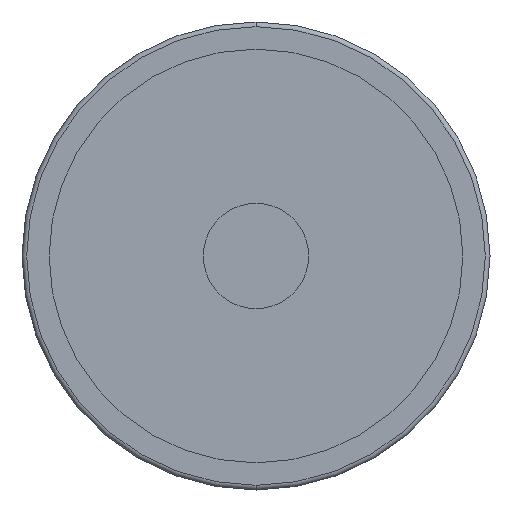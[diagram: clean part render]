
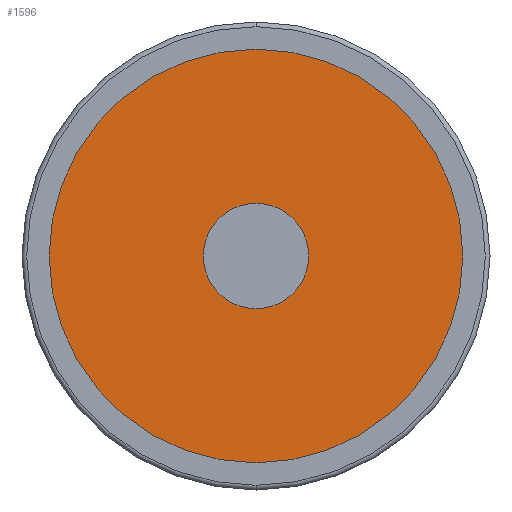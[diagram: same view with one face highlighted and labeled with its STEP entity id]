
A CAD part, front view. The second image highlights one B-rep face of the part: STEP entity #1596.
In plain terms, the highlighted planar face has unit normal (0, -1, 0).
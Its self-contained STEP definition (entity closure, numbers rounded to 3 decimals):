
#15 = EDGE_LOOP ( 'NONE', ( #1650, #1297 ) ) ;
#49 = FACE_OUTER_BOUND ( 'NONE', #15, .T. ) ;
#65 = DIRECTION ( 'NONE',  ( 1., 0., 0. ) ) ;
#187 = AXIS2_PLACEMENT_3D ( 'NONE', #1266, #2230, #1864 ) ;
#240 = CIRCLE ( 'NONE', #398, 10.25 ) ;
#253 = DIRECTION ( 'NONE',  ( 0., -1., 0. ) ) ;
#268 = EDGE_CURVE ( 'NONE', #1971, #390, #240, .T. ) ;
#293 = AXIS2_PLACEMENT_3D ( 'NONE', #333, #2335, #1787 ) ;
#333 = CARTESIAN_POINT ( 'NONE',  ( 0., 4.5, 0. ) ) ;
#390 = VERTEX_POINT ( 'NONE', #1073 ) ;
#398 = AXIS2_PLACEMENT_3D ( 'NONE', #1908, #1765, #1338 ) ;
#429 = DIRECTION ( 'NONE',  ( 1., 0., 0. ) ) ;
#468 = EDGE_LOOP ( 'NONE', ( #2083, #1879 ) ) ;
#595 = VERTEX_POINT ( 'NONE', #1666 ) ;
#774 = CARTESIAN_POINT ( 'NONE',  ( -44.3, 4.5, 0. ) ) ;
#867 = EDGE_CURVE ( 'NONE', #390, #1971, #1110, .T. ) ;
#987 = VERTEX_POINT ( 'NONE', #2073 ) ;
#999 = CIRCLE ( 'NONE', #293, 44.3 ) ;
#1073 = CARTESIAN_POINT ( 'NONE',  ( 10.25, 4.5, 0. ) ) ;
#1110 = CIRCLE ( 'NONE', #1152, 10.25 ) ;
#1152 = AXIS2_PLACEMENT_3D ( 'NONE', #2047, #1772, #65 ) ;
#1168 = CARTESIAN_POINT ( 'NONE',  ( -10.25, 4.5, 0. ) ) ;
#1266 = CARTESIAN_POINT ( 'NONE',  ( 0., 4.5, 0. ) ) ;
#1297 = ORIENTED_EDGE ( 'NONE', *, *, #1329, .T. ) ;
#1329 = EDGE_CURVE ( 'NONE', #595, #987, #999, .T. ) ;
#1338 = DIRECTION ( 'NONE',  ( 1., 0., 0. ) ) ;
#1596 = ADVANCED_FACE ( 'NONE', ( #49, #2133 ), #1917, .T. ) ;
#1650 = ORIENTED_EDGE ( 'NONE', *, *, #2246, .T. ) ;
#1666 = CARTESIAN_POINT ( 'NONE',  ( 44.3, 4.5, 0. ) ) ;
#1714 = AXIS2_PLACEMENT_3D ( 'NONE', #774, #253, #429 ) ;
#1765 = DIRECTION ( 'NONE',  ( 0., -1., 0. ) ) ;
#1772 = DIRECTION ( 'NONE',  ( 0., -1., 0. ) ) ;
#1787 = DIRECTION ( 'NONE',  ( 1., 0., 0. ) ) ;
#1864 = DIRECTION ( 'NONE',  ( 1., 0., 0. ) ) ;
#1879 = ORIENTED_EDGE ( 'NONE', *, *, #268, .F. ) ;
#1908 = CARTESIAN_POINT ( 'NONE',  ( 0., 4.5, 0. ) ) ;
#1917 = PLANE ( 'NONE',  #1714 ) ;
#1971 = VERTEX_POINT ( 'NONE', #1168 ) ;
#2047 = CARTESIAN_POINT ( 'NONE',  ( 0., 4.5, 0. ) ) ;
#2073 = CARTESIAN_POINT ( 'NONE',  ( -44.3, 4.5, 0. ) ) ;
#2083 = ORIENTED_EDGE ( 'NONE', *, *, #867, .F. ) ;
#2133 = FACE_BOUND ( 'NONE', #468, .T. ) ;
#2206 = CIRCLE ( 'NONE', #187, 44.3 ) ;
#2230 = DIRECTION ( 'NONE',  ( 0., -1., 0. ) ) ;
#2246 = EDGE_CURVE ( 'NONE', #987, #595, #2206, .T. ) ;
#2335 = DIRECTION ( 'NONE',  ( 0., -1., 0. ) ) ;
